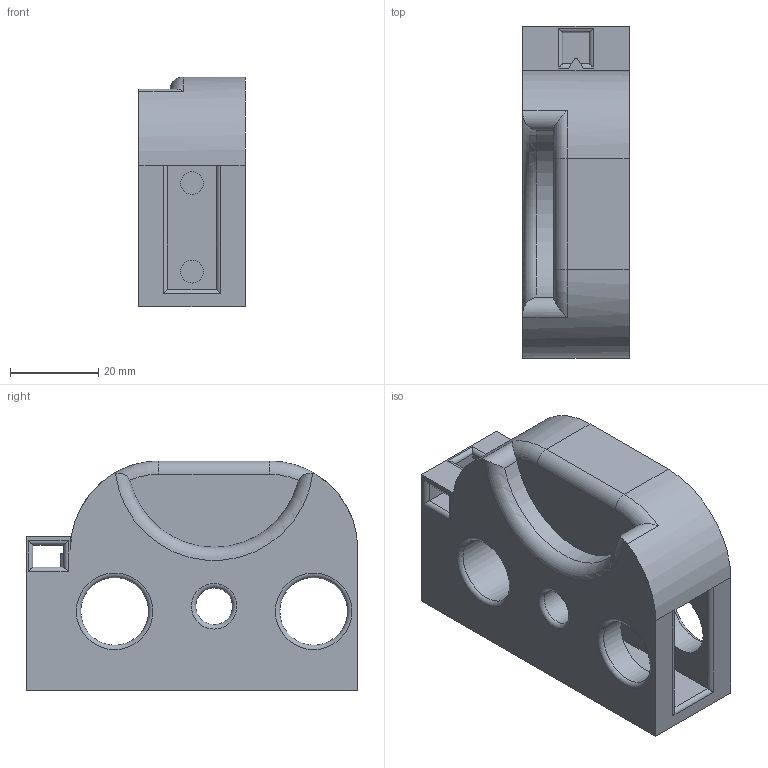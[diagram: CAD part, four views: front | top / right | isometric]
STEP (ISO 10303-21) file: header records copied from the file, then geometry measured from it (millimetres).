
FILE_DESCRIPTION(/* description */ (''),/* implementation_level */ '2;1');
FILE_NAME(/* name */ 'Z:\Flow\Inventor\Spritzenpumpe\Spritzenpumpe beweglich.stp',/* time_stamp */ '2018-09-10T16:00:11+02:00',/* author */ ('JN'),/* organization */ (''),/* preprocessor_version */ 'ST-DEVELOPER v16.13',/* originating_system */ 'Autodesk Inventor 2018',/* authorisation */ '');
FILE_SCHEMA (('AUTOMOTIVE_DESIGN { 1 0 10303 214 3 1 1 }'));
Length unit declared in the file: millimetre
Products named in the file (1): Spritzenpumpe beweglich
Bounding box: 24 x 75 x 52 mm (x, y, z)
Volume: 58122.1 mm3; surface area: 17789.8 mm2
Topology: 1 solids, 1 shells, 69 faces, 174 edges, 108 vertices
Faces by surface type: cylinder 30, plane 30, torus 9
Full cylindrical faces by diameter (mm): 5.2 x2, 8.3 x2, 15.3 x3
Entity records: 2101 total; most frequent: CARTESIAN_POINT 393, DIRECTION 354, ORIENTED_EDGE 322, EDGE_CURVE 161, AXIS2_PLACEMENT_3D 127, VERTEX_POINT 108, LINE 100, VECTOR 100
